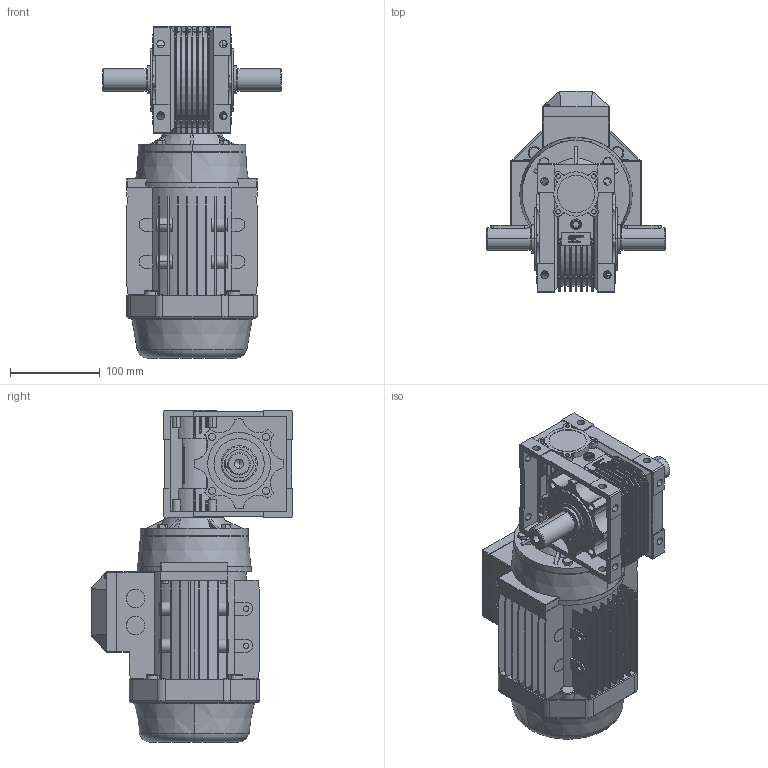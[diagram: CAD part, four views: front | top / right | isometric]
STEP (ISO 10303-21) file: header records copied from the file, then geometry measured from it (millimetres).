
FILE_DESCRIPTION (( 'STEP AP214' ), '1' );
FILE_NAME ('STP_NMRV050_双向输出轴_25_80B14_无_80_YS_1_无_无结构附件_无或C1或C2_无_无.step', '2022-04-19T08:39:51', ( 'IT Division' ), ( 'IT' ), 'SwSTEP 2.0', 'SolidWorks 2016', '' );
FILE_SCHEMA (( 'AUTOMOTIVE_DESIGN' ));
Length unit declared in the file: millimetre
Products named in the file (3): STP_NMRV050_双向输出轴_25_80B14_无_80_YS_1_无_无结构附件_无或C1或C2_无_无_NMRV; STP_NMRV050_双向输出轴_25_80B14_无_80_YS_1_无_无结构附件_无或C1或C2_无_无; STP_NMRV050_双向输出轴_25_80B14_无_80_YS_1_无_无结构附件_无或C1或C2_无_无_IEC电机
Assembly tree (2 placements, depth 2):
  STP_NMRV050_双向输出轴_25_80B14_无_80_YS_1_无_无结构附件_无或C1或C2_无_无
    STP_NMRV050_双向输出轴_25_80B14_无_80_YS_1_无_无结构附件_无或C1或C2_无_无_NMRV
    STP_NMRV050_双向输出轴_25_80B14_无_80_YS_1_无_无结构附件_无或C1或C2_无_无_IEC电机
Bounding box: 199 x 225 x 370 mm (x, y, z)
Volume: 4295986.2 mm3; surface area: 568818.6 mm2
Topology: 5 solids, 5 shells, 2992 faces, 7901 edges, 5024 vertices
Faces by surface type: plane 1581, cylinder 682, bspline 435, sphere 135, torus 96, cone 63
Entity records: 113112 total; most frequent: CARTESIAN_POINT 40201, ORIENTED_EDGE 15632, DIRECTION 13520, EDGE_CURVE 7816, VERTEX_POINT 5022, VECTOR 5002, LINE 5002, AXIS2_PLACEMENT_3D 4259
